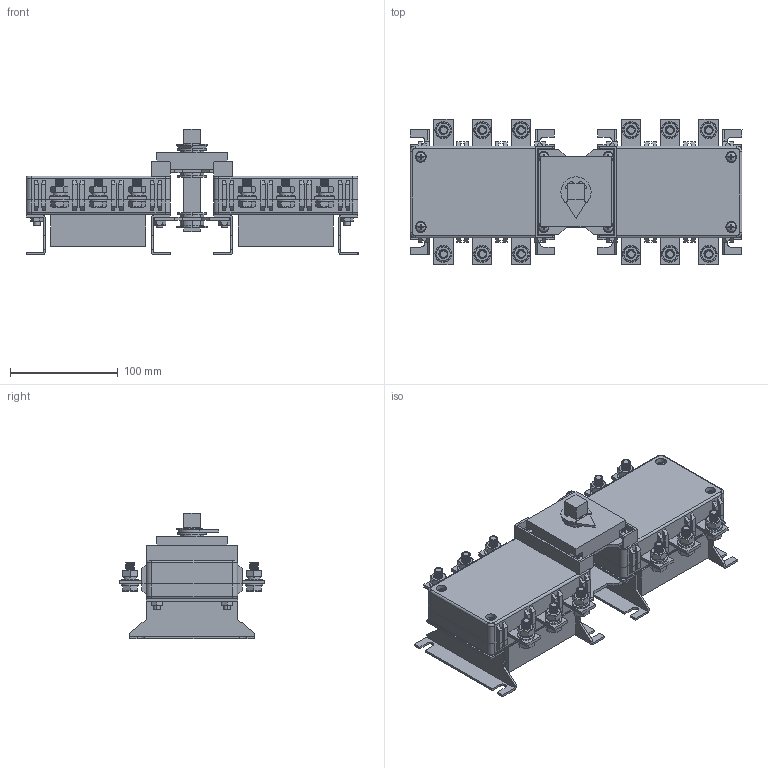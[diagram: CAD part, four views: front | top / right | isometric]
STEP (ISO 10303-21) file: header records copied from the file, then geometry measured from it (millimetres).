
FILE_DESCRIPTION((''),'2;1');
FILE_NAME('125-3S_ASM','2021-05-07T',('wangpeng'),(''),'PRO/ENGINEER BY PARAMETRIC TECHNOLOGY CORPORATION, 2009460','PRO/ENGINEER BY PARAMETRIC TECHNOLOGY CORPORATION, 2009460','');
FILE_SCHEMA(('AUTOMOTIVE_DESIGN { 1 0 10303 214 1 1 1 1 }'));
Length unit declared in the file: millimetre
Products named in the file (21): SB-125-3S; ZB-125-3S; DB-125-3S; XB-125-3S; ZCB-125-3S; YB-125-3S; CT-125-3S; PDQ8; TDQ8; 0LS8; 0LMM8; PDQ6; 0LSM6; LMM6; LDM6; FKSNH40; ZSJNH40; ZSJTNH40; ZZ-125-3S; DQM8; 125-3S_ASM
Assembly tree (124 placements, depth 2):
  125-3S_ASM
    SB-125-3S  x2
    ZB-125-3S  x2
    DB-125-3S  x4
    XB-125-3S  x2
    ZCB-125-3S  x2
    YB-125-3S  x2
    CT-125-3S  x6
    PDQ8  x24
    TDQ8  x12
    0LS8  x12
    0LMM8  x12
    PDQ6  x14
    0LSM6  x4
    LMM6  x8
    LDM6  x10
    FKSNH40  x3
    ZSJNH40
    ZSJTNH40
    ZZ-125-3S
    DQM8  x2
Bounding box: 308.01 x 135.03 x 116.5 mm (x, y, z)
Volume: 1493582.8 mm3; surface area: 400821.7 mm2
Topology: 124 solids, 124 shells, 2428 faces, 6425 edges, 4304 vertices
Faces by surface type: plane 1349, cylinder 623, cone 244, bspline 144, torus 40, sphere 28
Entity records: 25626 total; most frequent: CARTESIAN_POINT 7994, DIRECTION 3299, ORIENTED_EDGE 3214, EDGE_CURVE 1607, VECTOR 1141, LINE 1141, AXIS2_PLACEMENT_3D 1079, VERTEX_POINT 1067
